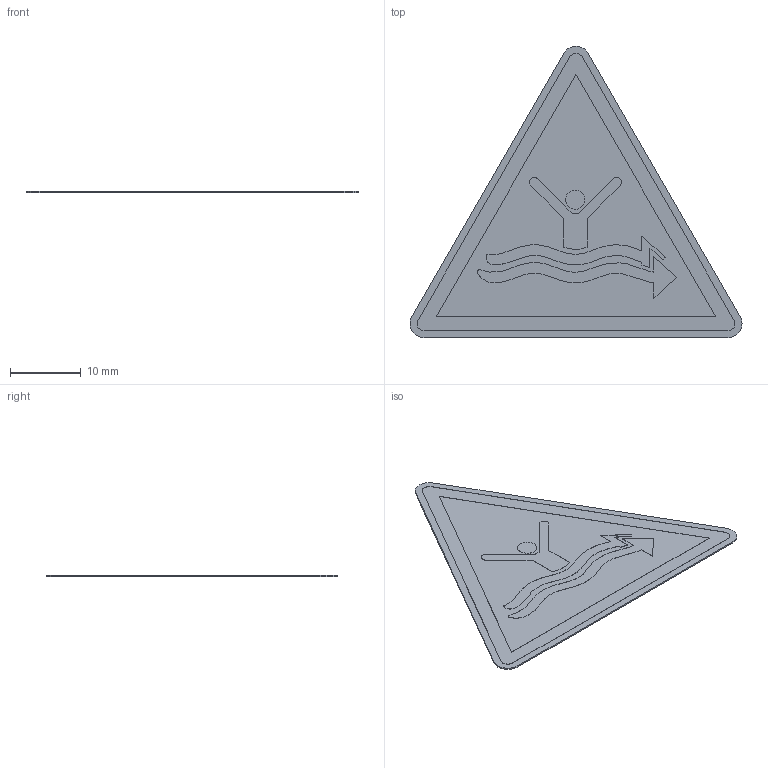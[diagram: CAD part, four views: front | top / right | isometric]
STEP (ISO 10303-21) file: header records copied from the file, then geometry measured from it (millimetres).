
FILE_DESCRIPTION (( 'STEP AP214' ), '1' );
FILE_NAME ('W057_Warnung vor starker Strömung.STEP', '2022-03-05T05:24:07', ( '' ), ( '' ), 'SwSTEP 2.0', 'SolidWorks 2021', '' );
FILE_SCHEMA (( 'AUTOMOTIVE_DESIGN' ));
Length unit declared in the file: millimetre
Products named in the file (1): W057_Warnung vor starker Strömung
Bounding box: 47.07 x 41.3 x 0.22 mm (x, y, z)
Volume: 222.6 mm3; surface area: 2185.6 mm2
Topology: 1 solids, 1 shells, 178 faces, 512 edges, 342 vertices
Faces by surface type: plane 159, cylinder 19
Entity records: 7632 total; most frequent: CARTESIAN_POINT 1033, ORIENTED_EDGE 1024, DIRECTION 908, EDGE_CURVE 512, LINE 474, VECTOR 474, VERTEX_POINT 342, AXIS2_PLACEMENT_3D 217
